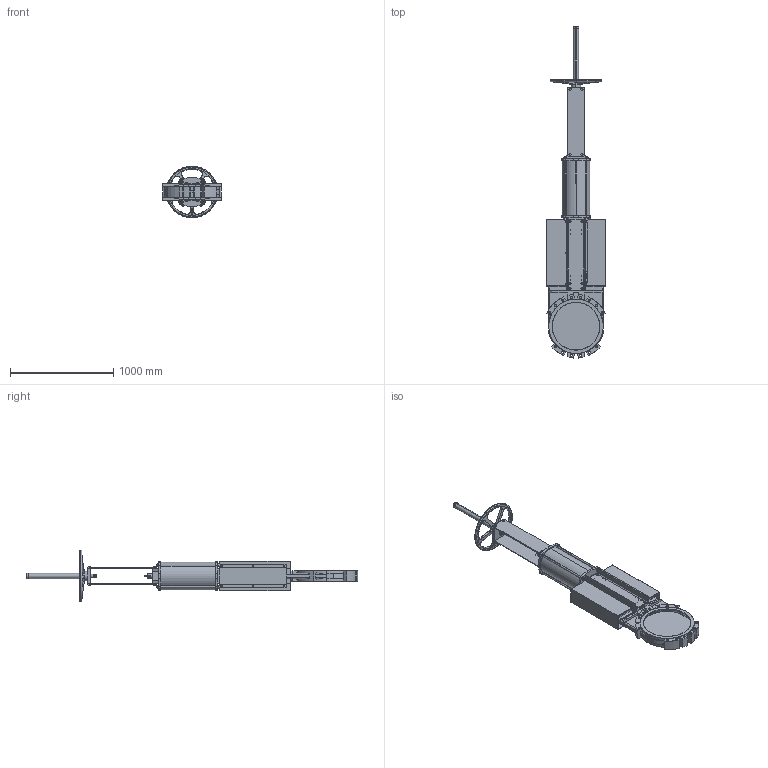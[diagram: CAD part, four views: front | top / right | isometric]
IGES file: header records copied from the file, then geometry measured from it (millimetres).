
Start section: SolidWorks IGES file using analytic representation for surfaces
Global section: file name: D:\part\3D Projects\VG-DOUBLE ACTING(DN50-450)\VG D DN450\VG D DN450.IGS; native system: SolidWorks 2009; preprocessor: SolidWorks 2009; author: zhixin.zheng; date: 100129.141201; units: millimetre
Bounding box: 568 x 3209.9 x 500 mm (x, y, z)
Surface area: 6336004.5 mm2 (no closed solid volume)
Topology: 0 solids, 0 shells, 1736 faces, 19173 edges, 19173 vertices
Faces by surface type: bspline 1104, revolution 632
